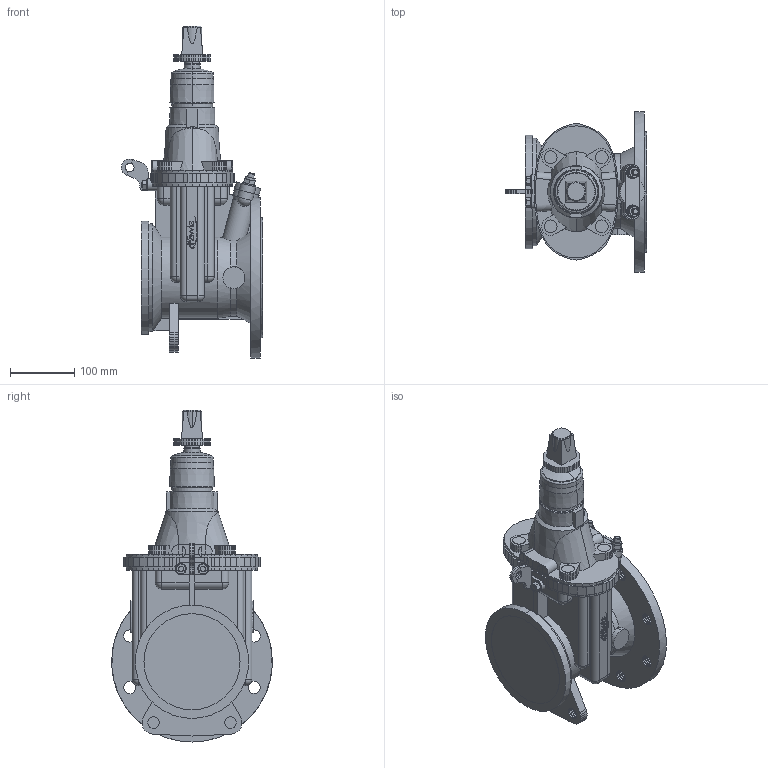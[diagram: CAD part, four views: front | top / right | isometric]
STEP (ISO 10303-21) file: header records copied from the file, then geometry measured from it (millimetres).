
FILE_DESCRIPTION(('no description'),'unknown implementation level');
FILE_NAME('4190E2_PN16_DN150-DN125.stp',' ',('pit-cup GmbH'),('CADClick - KiM GmbH - www.kimweb.de'),'unknown preprocess','ACIS','unknown authorization');
FILE_SCHEMA(('automotive_design'));
Length unit declared in the file: millimetre
Products named in the file (15): 1; 2; 3; 4; 5; 6; 7; 8; 9; 10; 11; 12; 13; 14; 15
Bounding box: 220.89 x 250.6 x 518.3 mm (x, y, z)
Volume: 6078165.4 mm3; surface area: 488007.7 mm2
Topology: 15 solids, 19 shells, 1581 faces, 4418 edges, 2901 vertices
Faces by surface type: plane 1372, cylinder 149, cone 44, sphere 14, torus 2
Entity records: 100690 total; most frequent: CARTESIAN_POINT 10375, STYLED_ITEM 8901, PRESENTATION_STYLE_ASSIGNMENT 8901, COLOUR_RGB 8901, ORIENTED_EDGE 8808, DIRECTION 7935, EDGE_CURVE 4404, CURVE_STYLE 4404
